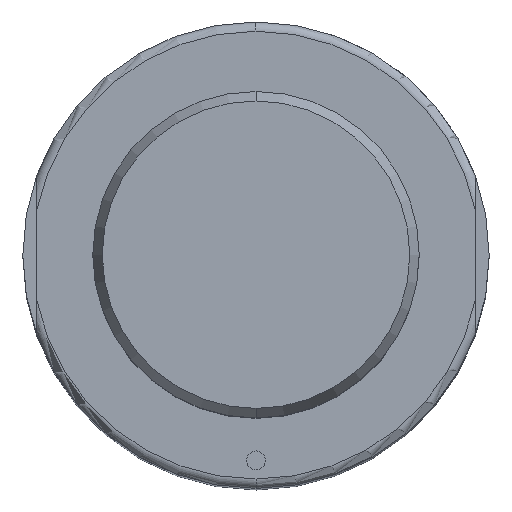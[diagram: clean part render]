
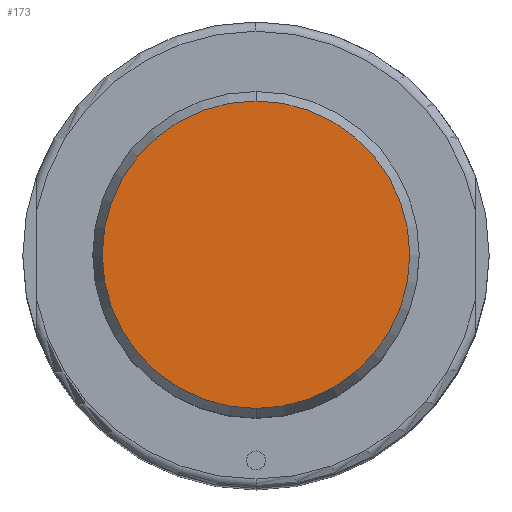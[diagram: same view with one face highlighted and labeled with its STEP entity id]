
A CAD part, top view. The second image highlights one B-rep face of the part: STEP entity #173.
In plain terms, the highlighted planar face has unit normal (0, 0, 1).
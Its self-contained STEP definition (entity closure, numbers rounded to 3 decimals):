
#124=PLANE('',#990);
#173=ADVANCED_FACE('',(#244),#124,.T.);
#244=FACE_OUTER_BOUND('',#297,.T.);
#297=EDGE_LOOP('',(#457,#458));
#364=CIRCLE('',#975,16.481);
#365=CIRCLE('',#977,16.481);
#457=ORIENTED_EDGE('',*,*,#758,.F.);
#458=ORIENTED_EDGE('',*,*,#759,.F.);
#677=VERTEX_POINT('',#1413);
#680=VERTEX_POINT('',#1418);
#758=EDGE_CURVE('',#680,#677,#364,.T.);
#759=EDGE_CURVE('',#677,#680,#365,.T.);
#975=AXIS2_PLACEMENT_3D('',#1419,#1109,#1110);
#977=AXIS2_PLACEMENT_3D('',#1421,#1113,#1114);
#990=AXIS2_PLACEMENT_3D('',#1444,#1143,#1144);
#1109=DIRECTION('',(0.,0.,-1.));
#1110=DIRECTION('',(-1.,0.,0.));
#1113=DIRECTION('',(0.,0.,-1.));
#1114=DIRECTION('',(1.,0.,0.));
#1143=DIRECTION('',(0.,0.,1.));
#1144=DIRECTION('',(0.,-1.,0.));
#1413=CARTESIAN_POINT('',(0.,-16.481,130.));
#1418=CARTESIAN_POINT('',(0.,16.481,130.));
#1419=CARTESIAN_POINT('',(0.,0.,130.));
#1421=CARTESIAN_POINT('',(0.,0.,130.));
#1444=CARTESIAN_POINT('',(0.,0.,130.));
